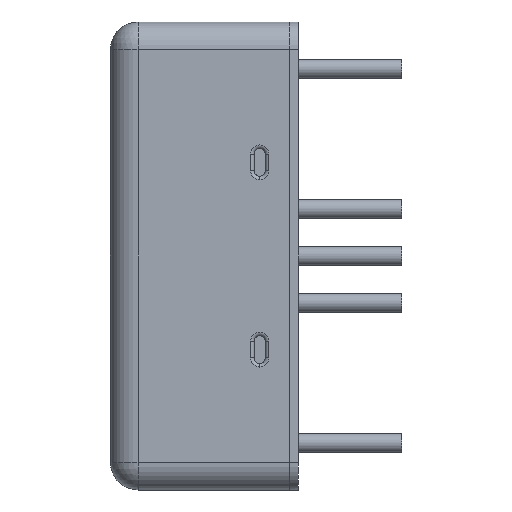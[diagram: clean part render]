
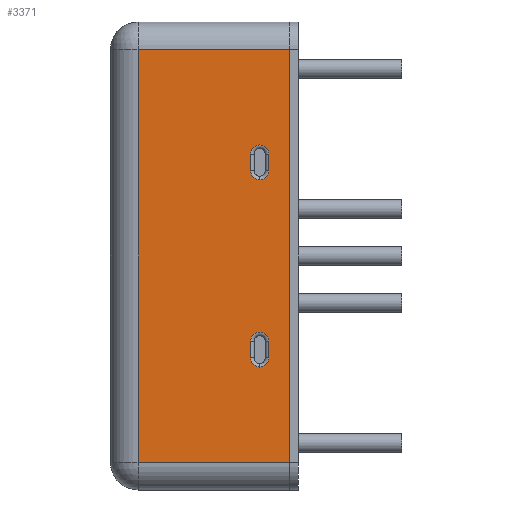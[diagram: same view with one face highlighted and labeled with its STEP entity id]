
A CAD part, left-side view. The second image highlights one B-rep face of the part: STEP entity #3371.
In plain terms, the highlighted planar face has unit normal (-1, 0, 0).
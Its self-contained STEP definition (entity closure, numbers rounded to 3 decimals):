
#112 = PLANE ( 'NONE',  #3363 ) ;
#154 = VERTEX_POINT ( 'NONE', #1840 ) ;
#177 = CARTESIAN_POINT ( 'NONE',  ( -25.4, 1.6, -6.03 ) ) ;
#191 = EDGE_CURVE ( 'NONE', #1744, #1528, #593, .T. ) ;
#210 = VECTOR ( 'NONE', #3005, 1000. ) ;
#215 = EDGE_CURVE ( 'NONE', #321, #154, #3717, .T. ) ;
#241 = VERTEX_POINT ( 'NONE', #1506 ) ;
#257 = DIRECTION ( 'NONE',  ( 0., 0., -1. ) ) ;
#321 = VERTEX_POINT ( 'NONE', #637 ) ;
#410 = VECTOR ( 'NONE', #5023, 1000. ) ;
#423 = AXIS2_PLACEMENT_3D ( 'NONE', #2373, #1579, #4760 ) ;
#470 = EDGE_CURVE ( 'NONE', #2574, #1588, #5017, .T. ) ;
#502 = ORIENTED_EDGE ( 'NONE', *, *, #4627, .F. ) ;
#523 = CIRCLE ( 'NONE', #4693, 0.5 ) ;
#565 = CARTESIAN_POINT ( 'NONE',  ( -25.4, 0., -9.7 ) ) ;
#593 = LINE ( 'NONE', #4346, #2932 ) ;
#610 = VERTEX_POINT ( 'NONE', #3785 ) ;
#611 = FACE_OUTER_BOUND ( 'NONE', #4325, .T. ) ;
#613 = LINE ( 'NONE', #5200, #4041 ) ;
#637 = CARTESIAN_POINT ( 'NONE',  ( -25.4, 1.6, 4.13 ) ) ;
#643 = ORIENTED_EDGE ( 'NONE', *, *, #4605, .T. ) ;
#647 = VERTEX_POINT ( 'NONE', #2860 ) ;
#649 = LINE ( 'NONE', #3176, #1032 ) ;
#668 = DIRECTION ( 'NONE',  ( 1., 0., 0. ) ) ;
#683 = DIRECTION ( 'NONE',  ( 0., -1., 0. ) ) ;
#718 = EDGE_CURVE ( 'NONE', #154, #2249, #3702, .T. ) ;
#739 = CARTESIAN_POINT ( 'NONE',  ( -25.4, 9.7, -11.2 ) ) ;
#754 = AXIS2_PLACEMENT_3D ( 'NONE', #1182, #3575, #4828 ) ;
#906 = DIRECTION ( 'NONE',  ( 0., 0., 1. ) ) ;
#933 = EDGE_LOOP ( 'NONE', ( #1495, #3107, #1882, #4705, #1545 ) ) ;
#980 = DIRECTION ( 'NONE',  ( 0., 0., -1. ) ) ;
#987 = EDGE_CURVE ( 'NONE', #2972, #2574, #3902, .T. ) ;
#1032 = VECTOR ( 'NONE', #683, 1000. ) ;
#1123 = ORIENTED_EDGE ( 'NONE', *, *, #2199, .F. ) ;
#1179 = LINE ( 'NONE', #3991, #1879 ) ;
#1182 = CARTESIAN_POINT ( 'NONE',  ( -25.4, 1.6, -4.63 ) ) ;
#1245 = ORIENTED_EDGE ( 'NONE', *, *, #987, .T. ) ;
#1280 = AXIS2_PLACEMENT_3D ( 'NONE', #3192, #4043, #2443 ) ;
#1297 = CARTESIAN_POINT ( 'NONE',  ( -25.4, 2.1, -12.7 ) ) ;
#1342 = DIRECTION ( 'NONE',  ( 1., 0., 0. ) ) ;
#1365 = CIRCLE ( 'NONE', #1280, 0.5 ) ;
#1401 = EDGE_CURVE ( 'NONE', #3777, #2972, #4177, .T. ) ;
#1423 = DIRECTION ( 'NONE',  ( 0., 0., 1. ) ) ;
#1430 = CARTESIAN_POINT ( 'NONE',  ( -25.4, 1.1, 5.53 ) ) ;
#1448 = EDGE_CURVE ( 'NONE', #1680, #3777, #3686, .T. ) ;
#1483 = DIRECTION ( 'NONE',  ( 0., 0., -1. ) ) ;
#1495 = ORIENTED_EDGE ( 'NONE', *, *, #2019, .T. ) ;
#1504 = CARTESIAN_POINT ( 'NONE',  ( -25.4, 8.2, 11.2 ) ) ;
#1506 = CARTESIAN_POINT ( 'NONE',  ( -25.4, 0., 11.2 ) ) ;
#1528 = VERTEX_POINT ( 'NONE', #2222 ) ;
#1545 = ORIENTED_EDGE ( 'NONE', *, *, #2996, .T. ) ;
#1562 = DIRECTION ( 'NONE',  ( 0., 1., 0. ) ) ;
#1579 = DIRECTION ( 'NONE',  ( 1., 0., 0. ) ) ;
#1588 = VERTEX_POINT ( 'NONE', #4217 ) ;
#1642 = CARTESIAN_POINT ( 'NONE',  ( -25.4, 2.1, -12.7 ) ) ;
#1656 = EDGE_LOOP ( 'NONE', ( #1898, #1245, #3719, #3803, #4186 ) ) ;
#1680 = VERTEX_POINT ( 'NONE', #4622 ) ;
#1744 = VERTEX_POINT ( 'NONE', #1504 ) ;
#1778 = CARTESIAN_POINT ( 'NONE',  ( -25.4, 9.7, -12.7 ) ) ;
#1840 = CARTESIAN_POINT ( 'NONE',  ( -25.4, 2.1, 4.63 ) ) ;
#1855 = FACE_BOUND ( 'NONE', #1656, .T. ) ;
#1879 = VECTOR ( 'NONE', #257, 1000. ) ;
#1882 = ORIENTED_EDGE ( 'NONE', *, *, #718, .T. ) ;
#1898 = ORIENTED_EDGE ( 'NONE', *, *, #1401, .T. ) ;
#2019 = EDGE_CURVE ( 'NONE', #2085, #321, #523, .T. ) ;
#2032 = DIRECTION ( 'NONE',  ( 0., 0., -1. ) ) ;
#2048 = ORIENTED_EDGE ( 'NONE', *, *, #4660, .F. ) ;
#2085 = VERTEX_POINT ( 'NONE', #4440 ) ;
#2147 = DIRECTION ( 'NONE',  ( 0., 0., -1. ) ) ;
#2199 = EDGE_CURVE ( 'NONE', #4961, #2676, #649, .T. ) ;
#2222 = CARTESIAN_POINT ( 'NONE',  ( -25.4, 8.2, -11.2 ) ) ;
#2235 = CIRCLE ( 'NONE', #754, 0.5 ) ;
#2249 = VERTEX_POINT ( 'NONE', #2512 ) ;
#2324 = LINE ( 'NONE', #739, #3951 ) ;
#2373 = CARTESIAN_POINT ( 'NONE',  ( -25.4, 1.6, -5.53 ) ) ;
#2443 = DIRECTION ( 'NONE',  ( 0., 0., -1. ) ) ;
#2512 = CARTESIAN_POINT ( 'NONE',  ( -25.4, 2.1, 5.53 ) ) ;
#2571 = VECTOR ( 'NONE', #2644, 1000. ) ;
#2574 = VERTEX_POINT ( 'NONE', #3020 ) ;
#2638 = CARTESIAN_POINT ( 'NONE',  ( -25.4, 1.6, 4.63 ) ) ;
#2644 = DIRECTION ( 'NONE',  ( 0., 0., -1. ) ) ;
#2667 = VECTOR ( 'NONE', #906, 1000. ) ;
#2676 = VERTEX_POINT ( 'NONE', #3170 ) ;
#2815 = ORIENTED_EDGE ( 'NONE', *, *, #4462, .T. ) ;
#2860 = CARTESIAN_POINT ( 'NONE',  ( -25.4, 0., -9.7 ) ) ;
#2932 = VECTOR ( 'NONE', #2147, 1000. ) ;
#2970 = DIRECTION ( 'NONE',  ( 0., 0., 1. ) ) ;
#2972 = VERTEX_POINT ( 'NONE', #177 ) ;
#2994 = DIRECTION ( 'NONE',  ( 0., 0., -1. ) ) ;
#2996 = EDGE_CURVE ( 'NONE', #4210, #2085, #1179, .T. ) ;
#3005 = DIRECTION ( 'NONE',  ( 0., 1., 0. ) ) ;
#3020 = CARTESIAN_POINT ( 'NONE',  ( -25.4, 2.1, -5.53 ) ) ;
#3078 = CARTESIAN_POINT ( 'NONE',  ( -25.4, 9.7, -9.7 ) ) ;
#3081 = EDGE_CURVE ( 'NONE', #2249, #4210, #1365, .T. ) ;
#3107 = ORIENTED_EDGE ( 'NONE', *, *, #215, .T. ) ;
#3130 = DIRECTION ( 'NONE',  ( 0., -1., 0. ) ) ;
#3170 = CARTESIAN_POINT ( 'NONE',  ( -25.4, 0., 9.7 ) ) ;
#3176 = CARTESIAN_POINT ( 'NONE',  ( -25.4, 9.7, 9.7 ) ) ;
#3192 = CARTESIAN_POINT ( 'NONE',  ( -25.4, 1.6, 5.53 ) ) ;
#3220 = DIRECTION ( 'NONE',  ( 1., 0., 0. ) ) ;
#3276 = AXIS2_PLACEMENT_3D ( 'NONE', #4390, #668, #1483 ) ;
#3363 = AXIS2_PLACEMENT_3D ( 'NONE', #1778, #5099, #980 ) ;
#3371 = ADVANCED_FACE ( 'NONE', ( #1855, #3508, #611 ), #112, .F. ) ;
#3420 = EDGE_CURVE ( 'NONE', #241, #1744, #3626, .T. ) ;
#3439 = CARTESIAN_POINT ( 'NONE',  ( -25.4, 0., -12.7 ) ) ;
#3488 = EDGE_CURVE ( 'NONE', #1528, #610, #2324, .T. ) ;
#3502 = CARTESIAN_POINT ( 'NONE',  ( -25.4, 1.1, -5.53 ) ) ;
#3508 = FACE_BOUND ( 'NONE', #933, .T. ) ;
#3546 = VECTOR ( 'NONE', #3718, 1000. ) ;
#3575 = DIRECTION ( 'NONE',  ( 1., 0., 0. ) ) ;
#3605 = ORIENTED_EDGE ( 'NONE', *, *, #3488, .T. ) ;
#3626 = LINE ( 'NONE', #4895, #5252 ) ;
#3664 = CARTESIAN_POINT ( 'NONE',  ( -25.4, 1.6, -5.53 ) ) ;
#3686 = LINE ( 'NONE', #4963, #3546 ) ;
#3702 = LINE ( 'NONE', #1642, #5369 ) ;
#3716 = CARTESIAN_POINT ( 'NONE',  ( -25.4, 0., -12.7 ) ) ;
#3717 = CIRCLE ( 'NONE', #3276, 0.5 ) ;
#3718 = DIRECTION ( 'NONE',  ( 0., 0., -1. ) ) ;
#3719 = ORIENTED_EDGE ( 'NONE', *, *, #470, .T. ) ;
#3777 = VERTEX_POINT ( 'NONE', #3502 ) ;
#3785 = CARTESIAN_POINT ( 'NONE',  ( -25.4, 0., -11.2 ) ) ;
#3803 = ORIENTED_EDGE ( 'NONE', *, *, #4298, .T. ) ;
#3902 = CIRCLE ( 'NONE', #423, 0.5 ) ;
#3951 = VECTOR ( 'NONE', #3130, 1000. ) ;
#3991 = CARTESIAN_POINT ( 'NONE',  ( -25.4, 1.1, -12.7 ) ) ;
#4041 = VECTOR ( 'NONE', #1423, 1000. ) ;
#4043 = DIRECTION ( 'NONE',  ( 1., 0., 0. ) ) ;
#4133 = LINE ( 'NONE', #3716, #410 ) ;
#4135 = VERTEX_POINT ( 'NONE', #565 ) ;
#4177 = CIRCLE ( 'NONE', #4263, 0.5 ) ;
#4186 = ORIENTED_EDGE ( 'NONE', *, *, #1448, .T. ) ;
#4210 = VERTEX_POINT ( 'NONE', #1430 ) ;
#4217 = CARTESIAN_POINT ( 'NONE',  ( -25.4, 2.1, -4.63 ) ) ;
#4263 = AXIS2_PLACEMENT_3D ( 'NONE', #3664, #3220, #2032 ) ;
#4298 = EDGE_CURVE ( 'NONE', #1588, #1680, #2235, .T. ) ;
#4316 = LINE ( 'NONE', #3078, #210 ) ;
#4325 = EDGE_LOOP ( 'NONE', ( #643, #1123, #2815, #4596, #5220, #3605, #502, #2048 ) ) ;
#4346 = CARTESIAN_POINT ( 'NONE',  ( -25.4, 8.2, -12.7 ) ) ;
#4390 = CARTESIAN_POINT ( 'NONE',  ( -25.4, 1.6, 4.63 ) ) ;
#4440 = CARTESIAN_POINT ( 'NONE',  ( -25.4, 1.1, 4.63 ) ) ;
#4462 = EDGE_CURVE ( 'NONE', #4961, #241, #4133, .T. ) ;
#4596 = ORIENTED_EDGE ( 'NONE', *, *, #3420, .T. ) ;
#4605 = EDGE_CURVE ( 'NONE', #4135, #2676, #613, .T. ) ;
#4622 = CARTESIAN_POINT ( 'NONE',  ( -25.4, 1.1, -4.63 ) ) ;
#4627 = EDGE_CURVE ( 'NONE', #647, #610, #4767, .T. ) ;
#4660 = EDGE_CURVE ( 'NONE', #4135, #647, #4316, .T. ) ;
#4693 = AXIS2_PLACEMENT_3D ( 'NONE', #2638, #1342, #2994 ) ;
#4705 = ORIENTED_EDGE ( 'NONE', *, *, #3081, .T. ) ;
#4760 = DIRECTION ( 'NONE',  ( 0., 0., -1. ) ) ;
#4767 = LINE ( 'NONE', #3439, #2571 ) ;
#4828 = DIRECTION ( 'NONE',  ( 0., 0., -1. ) ) ;
#4895 = CARTESIAN_POINT ( 'NONE',  ( -25.4, 9.7, 11.2 ) ) ;
#4961 = VERTEX_POINT ( 'NONE', #5364 ) ;
#4963 = CARTESIAN_POINT ( 'NONE',  ( -25.4, 1.1, -12.7 ) ) ;
#5017 = LINE ( 'NONE', #1297, #2667 ) ;
#5023 = DIRECTION ( 'NONE',  ( 0., 0., 1. ) ) ;
#5099 = DIRECTION ( 'NONE',  ( 1., 0., 0. ) ) ;
#5200 = CARTESIAN_POINT ( 'NONE',  ( -25.4, 0., 11.2 ) ) ;
#5220 = ORIENTED_EDGE ( 'NONE', *, *, #191, .T. ) ;
#5252 = VECTOR ( 'NONE', #1562, 1000. ) ;
#5364 = CARTESIAN_POINT ( 'NONE',  ( -25.4, 0., 9.7 ) ) ;
#5369 = VECTOR ( 'NONE', #2970, 1000. ) ;
